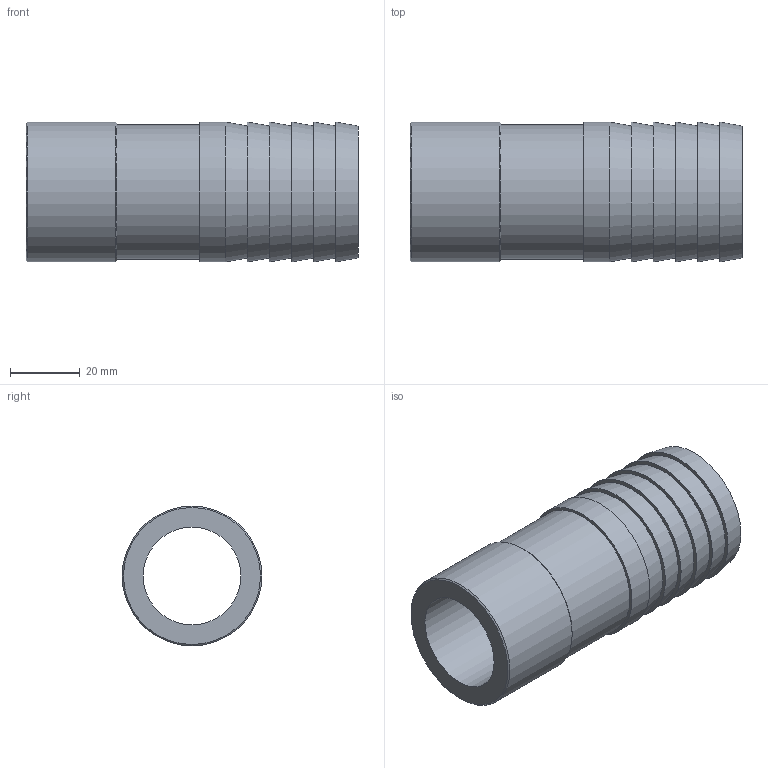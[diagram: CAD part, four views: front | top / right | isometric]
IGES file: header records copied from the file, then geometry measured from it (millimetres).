
Global section: file name: 053600040.ipt; native system: Autodesk Inventor 2015; preprocessor: unknown; author: KIM; date: 20171207.165458; units: millimetre
Bounding box: 95 x 40 x 40 mm (x, y, z)
Volume: 55907.5 mm3; surface area: 22078.8 mm2
Topology: 1 solids, 1 shells, 21 faces, 35 edges, 23 vertices
Faces by surface type: plane 9, cone 8, cylinder 3, revolution 1
Full cylindrical faces by diameter (mm): 38.4 x1, 40 x2
